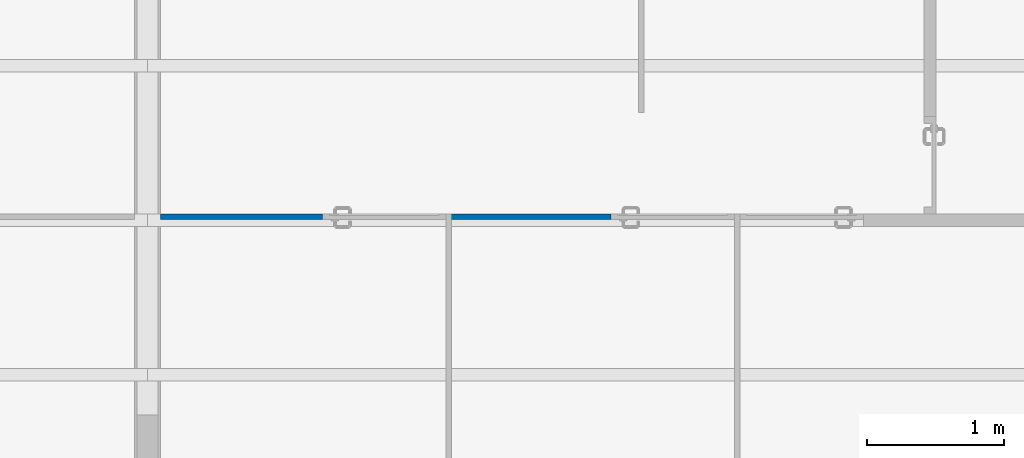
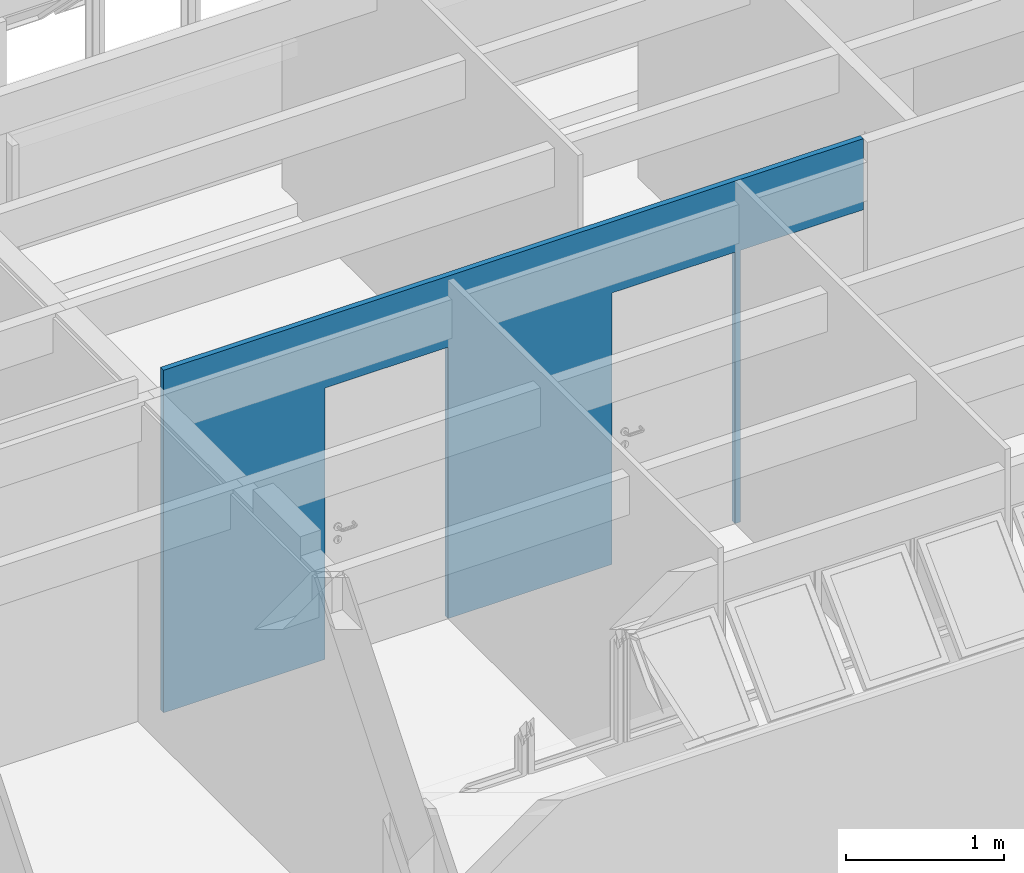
# One storey, part 9 of 37: 1 wall, 3 openings.
"""IFC2X3 building model written with IfcOpenShell, lengths in millimetres."""

import ifcopenshell
import ifcopenshell.guid

model = None  # the IFC model being written
_history = None  # IfcOwnerHistory: only IFC2X3 demands one
_inside = {}  # id of a spatial element -> (the spatial element, [elements in it])
_under = {}  # id of a project, library or spatial element -> (it, [spatial elements below it])
_declared = {}  # id of a project -> (the project, [libraries it declares])
_typed = {}  # id of a type object -> (the type object, [elements of that type])
_made_of = {}  # id of a material, layer set ... -> (it, [elements and type objects made of it])


def new_model(schema):
    """Start an empty IFC model of exactly this schema.

    Asked for "IFC4X3", IfcOpenShell would pick the latest addendum, in which some entities
    have other attributes; the version numbers below select the first issue.
    IFC2X3 requires an IfcOwnerHistory on every rooted entity: one is made here for all.
    """
    global model, _history
    if schema == "IFC4X3":
        model = ifcopenshell.file(schema_version=(4, 3, 0, 0))
    else:
        model = ifcopenshell.file(schema=schema)
    _inside.clear()
    _under.clear()
    _declared.clear()
    _typed.clear()
    _made_of.clear()
    _history = None
    if model.schema == "IFC2X3":
        org = make("IfcOrganization", Name="unknown")
        user = make(
            "IfcPersonAndOrganization",
            ThePerson=make("IfcPerson", FamilyName="unknown"),
            TheOrganization=org,
        )
        app = make(
            "IfcApplication",
            ApplicationDeveloper=org,
            Version="unknown",
            ApplicationFullName="unknown",
            ApplicationIdentifier="unknown",
        )
        _history = make(
            "IfcOwnerHistory",
            OwningUser=user,
            OwningApplication=app,
            ChangeAction="ADDED",
            CreationDate=0,
        )
    return model


def make(cls, **values):
    """One entity of the class cls with the attributes given. An attribute that is None is left unset."""
    return model.create_entity(
        cls, **{name: value for name, value in values.items() if value is not None}
    )


def entity(cls, *values):
    """Any entity or typed value of the class cls, its attributes in the order of the schema. None: left unset."""
    e = model.create_entity(cls)
    for i, value in enumerate(values):
        if value is not None:
            e[i] = value
    return e


def rooted(cls, **values):
    """An entity with a GlobalId (a new one), such as an element, a storey or a relation."""
    return make(cls, GlobalId=ifcopenshell.guid.new(), OwnerHistory=_history, **values)


def si_unit(unit_type, name, prefix=None):
    """IfcSIUnit, for example si_unit("LENGTHUNIT", "METRE", prefix="MILLI")."""
    return make("IfcSIUnit", UnitType=unit_type, Prefix=prefix, Name=name)


def converted_unit(unit_type, name, factor, base, dimensions=None, offset=None):
    """IfcConversionBasedUnit, such as the inch: factor (a typed value) times the base unit."""
    return make(
        "IfcConversionBasedUnit"
        if offset is None
        else "IfcConversionBasedUnitWithOffset",
        ConversionOffset=offset,
        Dimensions=None
        if dimensions is None
        else entity("IfcDimensionalExponents", *dimensions),
        UnitType=unit_type,
        Name=name,
        ConversionFactor=make(
            "IfcMeasureWithUnit", ValueComponent=factor, UnitComponent=base
        ),
    )


def derived_unit(unit_type, elements):
    """IfcDerivedUnit: a product of units, each with its exponent."""
    return make(
        "IfcDerivedUnit",
        Elements=[
            make("IfcDerivedUnitElement", Unit=unit, Exponent=power)
            for unit, power in elements
        ],
        UnitType=unit_type,
    )


def money_unit(currency):
    """IfcMonetaryUnit."""
    return make("IfcMonetaryUnit", Currency=currency)


def assignment(units):
    """IfcUnitAssignment: the units of a project."""
    return None if units is None else make("IfcUnitAssignment", Units=units)


def point(xyz):
    """IfcCartesianPoint."""
    return None if xyz is None else make("IfcCartesianPoint", Coordinates=xyz)


def direction(xyz):
    """IfcDirection."""
    return None if xyz is None else make("IfcDirection", DirectionRatios=xyz)


def frame(location, z_axis=None, x_axis=None):
    """IfcAxis2Placement3D, a coordinate frame: its origin and axes. An axis left out is left unset."""
    return make(
        "IfcAxis2Placement3D",
        Location=point(location),
        Axis=direction(z_axis),
        RefDirection=direction(x_axis),
    )


def frame_2d(location, x_axis=None):
    """IfcAxis2Placement2D, a coordinate frame in the plane: its origin and x axis."""
    return make(
        "IfcAxis2Placement2D", Location=point(location), RefDirection=direction(x_axis)
    )


def origin_with_axes():
    """The frame at (0, 0, 0) with the z axis (0, 0, 1) and the x axis (1, 0, 0) written out."""
    return frame((0.0, 0.0, 0.0), z_axis=(0.0, 0.0, 1.0), x_axis=(1.0, 0.0, 0.0))


def origin_2d_with_axis():
    """The frame at (0, 0) in the plane with the x axis (1, 0) written out."""
    return frame_2d((0.0, 0.0), x_axis=(1.0, 0.0))


def place(relative_to, where):
    """IfcLocalPlacement: puts the frame where relative to a parent placement (None: the world)."""
    return make(
        "IfcLocalPlacement", PlacementRelTo=relative_to, RelativePlacement=where
    )


def context(
    kind, dimensions, precision=None, world=None, true_north=None, identifier=None
):
    """IfcGeometricRepresentationContext, for example the 3D "Model" context."""
    return make(
        "IfcGeometricRepresentationContext",
        ContextIdentifier=identifier,
        ContextType=kind,
        CoordinateSpaceDimension=dimensions,
        Precision=precision,
        WorldCoordinateSystem=world,
        TrueNorth=true_north,
    )


def subcontext(parent, identifier, kind, view, scale=None):
    """IfcGeometricRepresentationSubContext, for example "Body" below "Model"."""
    return make(
        "IfcGeometricRepresentationSubContext",
        ContextIdentifier=identifier,
        ContextType=kind,
        ParentContext=parent,
        TargetScale=scale,
        TargetView=view,
    )


def project(units=None, contexts=None):
    """IfcProject with its units and contexts."""
    return rooted(
        "IfcProject",
        Name="project",
        RepresentationContexts=contexts,
        UnitsInContext=assignment(units),
    )


def spatial(cls, under=None, at=None, **own):
    """A site, building, storey or space (cls), placed at a placement, below another one or the project."""
    s = rooted(cls, ObjectPlacement=at, **own)
    if under is not None:
        _under.setdefault(under.id(), (under, []))[1].append(s)
    return s


def polyline(points):
    """IfcPolyline through the points."""
    return make("IfcPolyline", Points=[point(p) for p in points])


def profile(cls, at=None, kind="AREA", **sizes):
    """A parametric profile (cls). Its sizes go by their IFC names, for example OverallWidth=200.0."""
    return make(cls, ProfileType=kind, Position=at, **sizes)


def rectangle(**sizes):
    """IfcRectangleProfileDef."""
    return profile("IfcRectangleProfileDef", **sizes)


def outline(outer, holes=None, kind="AREA"):
    """IfcArbitraryClosedProfileDef: a profile drawn as a closed curve; with holes, ...WithVoids."""
    if holes is None:
        return make("IfcArbitraryClosedProfileDef", ProfileType=kind, OuterCurve=outer)
    return make(
        "IfcArbitraryProfileDefWithVoids",
        ProfileType=kind,
        OuterCurve=outer,
        InnerCurves=holes,
    )


def extrude(swept, where, along, depth):
    """IfcExtrudedAreaSolid: the profile swept, set in the frame where, extruded along a direction by depth."""
    return make(
        "IfcExtrudedAreaSolid",
        SweptArea=swept,
        Position=where,
        ExtrudedDirection=direction(along),
        Depth=depth,
    )


def shape(context_of_items, identifier, shape_type, items):
    """IfcShapeRepresentation: the items that make up one representation, for example the "Body"."""
    return make(
        "IfcShapeRepresentation",
        ContextOfItems=context_of_items,
        RepresentationIdentifier=identifier,
        RepresentationType=shape_type,
        Items=items,
    )


def material(Name=None, Category=None):
    """IfcMaterial."""
    return make("IfcMaterial", Name=Name, Category=Category)


def layer(
    of_material, thickness, ventilated=None, Name=None, Category=None, Priority=None
):
    """IfcMaterialLayer: one layer of a wall or slab, of a material (None: an air gap)."""
    return make(
        "IfcMaterialLayer",
        Material=of_material,
        LayerThickness=thickness,
        IsVentilated=ventilated,
        Name=Name,
        Category=Category,
        Priority=Priority,
    )


def layer_set(layers, Name=None):
    """IfcMaterialLayerSet."""
    return make("IfcMaterialLayerSet", MaterialLayers=layers, LayerSetName=Name)


def layer_usage(for_layer_set, set_direction, sense, offset, extent=None):
    """IfcMaterialLayerSetUsage: how a layer set lies in its element."""
    return make(
        "IfcMaterialLayerSetUsage",
        ForLayerSet=for_layer_set,
        LayerSetDirection=set_direction,
        DirectionSense=sense,
        OffsetFromReferenceLine=offset,
        ReferenceExtent=extent,
    )


def made_of(thing, what):
    """Note that an element or type object is made of a material, layer set ...; save() writes the relation."""
    if what is not None:
        _made_of.setdefault(what.id(), (what, []))[1].append(thing)
    return thing


def type_object(cls, material=None, **own):
    """A type object (cls), such as IfcWallType, which elements share."""
    return made_of(rooted(cls, **own), material)


def element(
    cls,
    number,
    at=None,
    inside=None,
    cuts=None,
    type_object=None,
    material=None,
    context=None,
    identifier="Body",
    shape_type=None,
    held_by="IfcProductDefinitionShape",
    body=None,
    shapes=None,
    **own,
):
    """One element of the class cls, such as IfcWall. Its Tag is "e" and its number.

    at: its placement. inside: the storey or other place that contains it. cuts: it is an
    opening in that element (IfcRelVoidsElement). A single representation is given by context,
    identifier, shape_type and body (its items); several are given by shapes. held_by: the class
    of the entity that holds the representations. save() writes the other relations.
    """
    e = rooted(cls, Tag="e%d" % number, ObjectPlacement=at, **own)
    if body is not None:
        shapes = [shape(context, identifier, shape_type, body)]
    if shapes is not None:
        e.Representation = make(held_by, Representations=shapes)
    if inside is not None:
        _inside.setdefault(inside.id(), (inside, []))[1].append(e)
    if cuts is not None:
        rooted(
            "IfcRelVoidsElement", RelatingBuildingElement=cuts, RelatedOpeningElement=e
        )
    if type_object is not None:
        _typed.setdefault(type_object.id(), (type_object, []))[1].append(e)
    return made_of(e, material)


def aggregate(whole, parts):
    """IfcRelAggregates: a whole, such as a stair, and the parts it consists of."""
    return rooted("IfcRelAggregates", RelatingObject=whole, RelatedObjects=parts)


def save(model, path):
    """Write the relations noted so far, then the file.

    IfcRelAggregates (storeys below a building ...), IfcRelContainedInSpatialStructure (elements
    in a storey), IfcRelDefinesByType, IfcRelAssociatesMaterial and IfcRelDeclares: one each for
    every whole, place, type object, material and project.
    """
    for whole, parts in _under.values():
        aggregate(whole, parts)
    for where, things in _inside.values():
        rooted(
            "IfcRelContainedInSpatialStructure",
            RelatedElements=things,
            RelatingStructure=where,
        )
    for kind, things in _typed.values():
        rooted("IfcRelDefinesByType", RelatedObjects=things, RelatingType=kind)
    for what, things in _made_of.values():
        rooted("IfcRelAssociatesMaterial", RelatedObjects=things, RelatingMaterial=what)
    for by, libraries in _declared.values():
        rooted("IfcRelDeclares", RelatingContext=by, RelatedDefinitions=libraries)
    model.write(path)


model = new_model("IFC2X3")

# Units and contexts
model_context = context("Model", 3, precision=0.01, world=origin_with_axes(), true_north=direction((0.0, 1.0)))
body_context = subcontext(model_context, "Body", "Model", "MODEL_VIEW")
ifc_project = project(units=[si_unit("LENGTHUNIT", "METRE", prefix="MILLI"), si_unit("AREAUNIT", "SQUARE_METRE"), si_unit("VOLUMEUNIT", "CUBIC_METRE"), converted_unit("PLANEANGLEUNIT", "DEGREE", entity("IfcPlaneAngleMeasure", 0.0174532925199), si_unit("PLANEANGLEUNIT", "RADIAN"), dimensions=[0, 0, 0, 0, 0, 0, 0]), money_unit("USD"), converted_unit("TIMEUNIT", "Year", entity("IfcTimeMeasure", 31556926.0), si_unit("TIMEUNIT", "SECOND"), dimensions=[0, 0, 1, 0, 0, 0, 0]), si_unit("MASSUNIT", "GRAM", prefix="KILO"), si_unit("THERMODYNAMICTEMPERATUREUNIT", "DEGREE_CELSIUS"), si_unit("LUMINOUSINTENSITYUNIT", "LUMEN"), si_unit("ENERGYUNIT", "JOULE", prefix="MEGA"), derived_unit("THERMALCONDUCTANCEUNIT", [(si_unit("POWERUNIT", "WATT"), 1), (si_unit("LENGTHUNIT", "METRE"), -1), (si_unit("THERMODYNAMICTEMPERATUREUNIT", "KELVIN"), -1)]), derived_unit("SPECIFICHEATCAPACITYUNIT", [(si_unit("ENERGYUNIT", "JOULE"), 1), (si_unit("MASSUNIT", "GRAM", prefix="KILO"), -1), (si_unit("THERMODYNAMICTEMPERATUREUNIT", "KELVIN"), -1)]), derived_unit("MASSDENSITYUNIT", [(si_unit("MASSUNIT", "GRAM", prefix="KILO"), 1), (si_unit("VOLUMEUNIT", "CUBIC_METRE"), -1)])], contexts=[model_context])

# Site, building, storey
site_placement = place(None, origin_with_axes())
site = spatial("IfcSite", under=ifc_project, at=site_placement, Name="Local", CompositionType="ELEMENT")
building_placement = place(site_placement, origin_with_axes())
building = spatial("IfcBuilding", under=site, at=building_placement, Name="Construção", CompositionType="ELEMENT")
storey_placement = place(building_placement, origin_with_axes())
storey = spatial("IfcBuildingStorey", under=building, at=storey_placement, Name="Primeiro Pavimento", CompositionType="ELEMENT", Elevation=0.0)

# Wall, openings
ifc_material = material(Name="GENÉRICO - VEDAÇÃO EXTERNA")
ifc_layer = layer(ifc_material, 40.0, ventilated="UNKNOWN")
ifc_layer_set = layer_set([ifc_layer], Name="GENÉRICO - VEDAÇÃO EXTERNA 40")
ifc_layer_usage = layer_usage(ifc_layer_set, "AXIS2", "POSITIVE", 0.0)
wall_type = type_object("IfcWallType", Name="GENÉRICO - VEDAÇÃO EXTERNA 40", PredefinedType="NOTDEFINED")
wall_placement = place(storey_placement, frame((12600.0, 3765.2195667, 0.0), z_axis=(0.0, 0.0, 1.0), x_axis=(-0.99999999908, -4.28841203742e-05, 0.0)))
wall = element("IfcWallStandardCase", 1, at=wall_placement, inside=storey, type_object=wall_type, material=ifc_layer_usage, Name="APTO2-PAREDE-006", context=body_context, shape_type="SweptSolid", body=[
    extrude(outline(polyline([(0.0, 0.0), (5120.00000471, 0.0), (5120.00172007, 40.0), (0.000857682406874, 40.0), (0.0, 0.0)])), origin_with_axes(), (0.0, 0.0, 1.0), 2650.0),
])
opening_1_placement = place(wall_placement, frame((1390.00000471, 0.0, 0.0), z_axis=(0.0, 0.0, 1.0), x_axis=(1.0, 0.0, 0.0)))
element("IfcOpeningElement", 2, at=opening_1_placement, cuts=wall, Name="APTO2-PORTA-002", context=body_context, shape_type="SweptSolid", body=[
    extrude(rectangle(XDim=900.0, YDim=2100.0, at=origin_2d_with_axis()), frame((0.0, 40.0, 1050.0), z_axis=(0.0, 1.0, 0.0), x_axis=(-1.0, 0.0, 0.0)), (0.0, 0.0, -1.0), 120.0),
])
opening_2_placement = place(wall_placement, frame((450.000004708, 0.0, 0.0), z_axis=(0.0, 0.0, 1.0), x_axis=(1.0, 0.0, 0.0)))
element("IfcOpeningElement", 3, at=opening_2_placement, cuts=wall, Name="APTO2-PORTA-001", context=body_context, shape_type="SweptSolid", body=[
    extrude(rectangle(XDim=900.0, YDim=2100.0, at=origin_2d_with_axis()), frame((0.0, 40.0, 1050.0), z_axis=(0.0, -1.0, 0.0), x_axis=(1.0, 0.0, 0.0)), (0.0, 0.0, 1.0), 120.0),
])
opening_3_placement = place(wall_placement, frame((3490.00000471, 0.0, 0.0), z_axis=(0.0, 0.0, 1.0), x_axis=(1.0, 0.0, 0.0)))
element("IfcOpeningElement", 4, at=opening_3_placement, cuts=wall, Name="APTO2-PORTA-000", context=body_context, shape_type="SweptSolid", body=[
    extrude(rectangle(XDim=900.0, YDim=2100.0, at=origin_2d_with_axis()), frame((0.0, 40.0, 1050.0), z_axis=(0.0, 1.0, 0.0), x_axis=(-1.0, 0.0, 0.0)), (0.0, 0.0, -1.0), 120.0),
])

save(model, "model.ifc")
